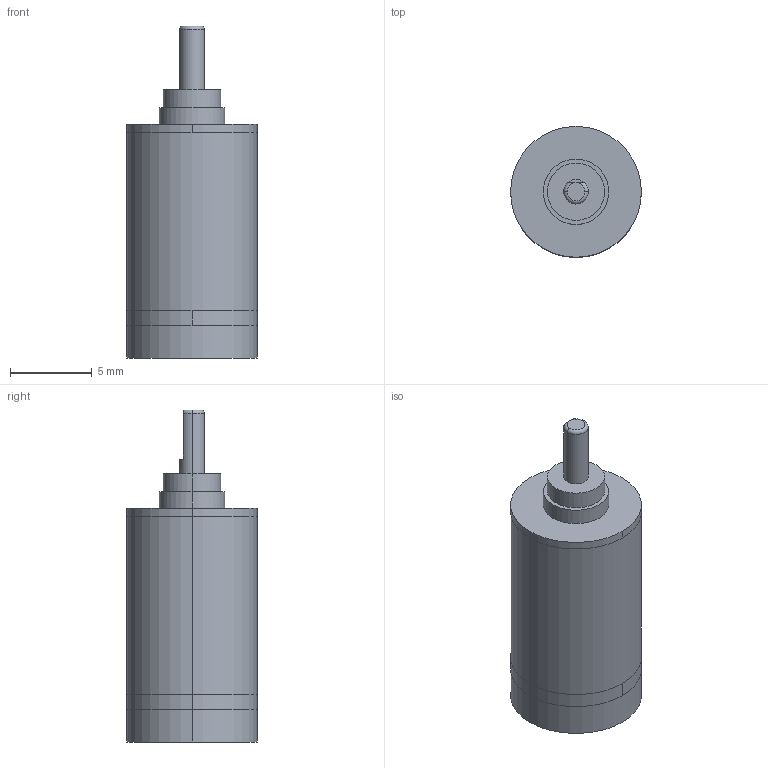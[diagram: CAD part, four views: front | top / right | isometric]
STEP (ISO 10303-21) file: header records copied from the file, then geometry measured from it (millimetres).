
FILE_DESCRIPTION (( 'STEP AP203' ), '1' );
FILE_NAME ('IG-08(II)-2stage.STEP', '2023-03-23T01:11:22', ( '' ), ( '' ), 'SwSTEP 2.0', 'SolidWorks 2019', '' );
FILE_SCHEMA (( 'CONFIG_CONTROL_DESIGN' ));
Length unit declared in the file: millimetre
Products named in the file (1): IG-08(II)-2stage
Bounding box: 8 x 8 x 20.3 mm (x, y, z)
Volume: 794.6 mm3; surface area: 776.3 mm2
Topology: 3 solids, 3 shells, 35 faces, 66 edges, 43 vertices
Faces by surface type: cylinder 18, plane 14, torus 3
Entity records: 982 total; most frequent: DIRECTION 179, CARTESIAN_POINT 159, ORIENTED_EDGE 132, AXIS2_PLACEMENT_3D 79, EDGE_CURVE 66, VERTEX_POINT 43, CIRCLE 43, EDGE_LOOP 41
